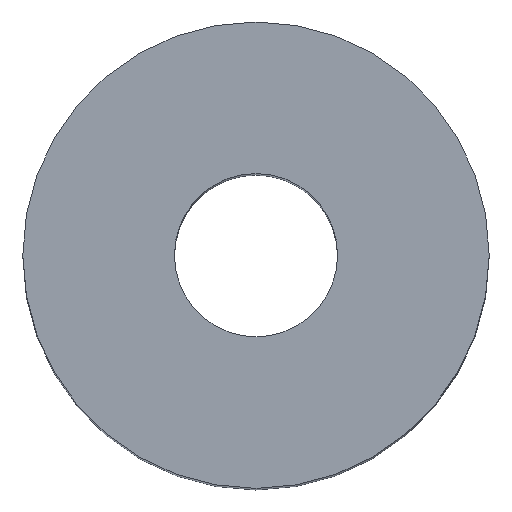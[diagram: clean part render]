
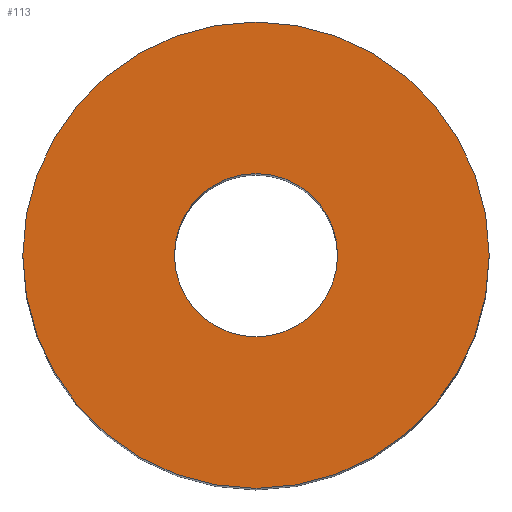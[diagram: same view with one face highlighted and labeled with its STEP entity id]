
A CAD part, top view. The second image highlights one B-rep face of the part: STEP entity #113.
In plain terms, the highlighted planar face has unit normal (0, 0, 1).
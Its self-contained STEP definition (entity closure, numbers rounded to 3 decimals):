
#113=ADVANCED_FACE('',(#121,#122),#119,.T.);
#119=PLANE('',#190);
#121=FACE_BOUND('',#125,.T.);
#122=FACE_BOUND('',#126,.T.);
#125=EDGE_LOOP('',(#133,#134));
#126=EDGE_LOOP('',(#135,#136));
#133=ORIENTED_EDGE('',*,*,#165,.T.);
#134=ORIENTED_EDGE('',*,*,#166,.T.);
#135=ORIENTED_EDGE('',*,*,#167,.F.);
#136=ORIENTED_EDGE('',*,*,#168,.F.);
#157=VERTEX_POINT('',#236);
#158=VERTEX_POINT('',#237);
#159=VERTEX_POINT('',#240);
#160=VERTEX_POINT('',#241);
#165=EDGE_CURVE('',#157,#158,#177,.T.);
#166=EDGE_CURVE('',#158,#157,#178,.T.);
#167=EDGE_CURVE('',#159,#160,#179,.T.);
#168=EDGE_CURVE('',#160,#159,#180,.T.);
#177=CIRCLE('',#186,20.);
#178=CIRCLE('',#187,20.);
#179=CIRCLE('',#188,7.);
#180=CIRCLE('',#189,7.);
#186=AXIS2_PLACEMENT_3D('',#235,#202,#203);
#187=AXIS2_PLACEMENT_3D('',#238,#204,#205);
#188=AXIS2_PLACEMENT_3D('',#239,#206,#207);
#189=AXIS2_PLACEMENT_3D('',#242,#208,#209);
#190=AXIS2_PLACEMENT_3D('',#243,#210,#211);
#202=DIRECTION('',(0.,0.,1.));
#203=DIRECTION('',(0.,1.,0.));
#204=DIRECTION('',(0.,0.,1.));
#205=DIRECTION('',(0.,-1.,0.));
#206=DIRECTION('',(0.,0.,1.));
#207=DIRECTION('',(0.,-1.,0.));
#208=DIRECTION('',(0.,0.,1.));
#209=DIRECTION('',(0.,1.,0.));
#210=DIRECTION('',(0.,0.,1.));
#211=DIRECTION('',(0.,1.,0.));
#235=CARTESIAN_POINT('',(0.,0.,80.));
#236=CARTESIAN_POINT('',(-20.,0.,80.));
#237=CARTESIAN_POINT('',(20.,0.,80.));
#238=CARTESIAN_POINT('',(0.,0.,80.));
#239=CARTESIAN_POINT('',(0.,0.,80.));
#240=CARTESIAN_POINT('',(7.,0.,80.));
#241=CARTESIAN_POINT('',(-7.,0.,80.));
#242=CARTESIAN_POINT('',(0.,0.,80.));
#243=CARTESIAN_POINT('',(0.,0.,80.));
